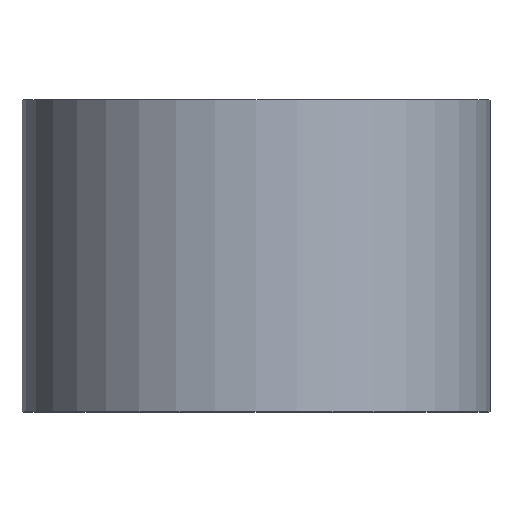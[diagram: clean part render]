
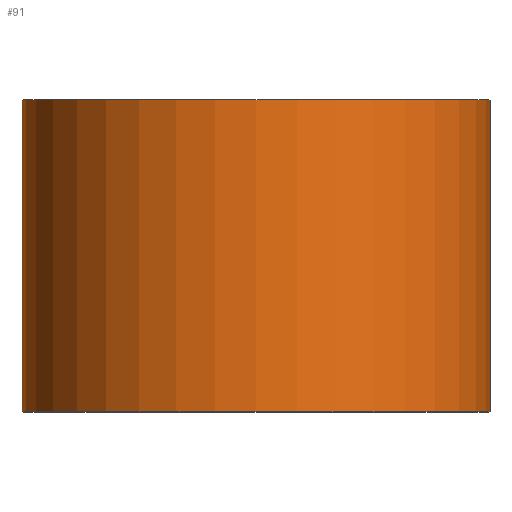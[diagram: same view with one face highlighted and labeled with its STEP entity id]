
A CAD part, top view. The second image highlights one B-rep face of the part: STEP entity #91.
In plain terms, the highlighted cylindrical face has radius 15 mm (diameter 30 mm), a partial arc.
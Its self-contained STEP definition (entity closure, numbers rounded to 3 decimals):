
#14 = LINE ( 'NONE', #251, #135 ) ;
#20 = FACE_OUTER_BOUND ( 'NONE', #254, .T. ) ;
#35 = ORIENTED_EDGE ( 'NONE', *, *, #193, .T. ) ;
#40 = VECTOR ( 'NONE', #296, 1000. ) ;
#62 = DIRECTION ( 'NONE',  ( 0., 1., 0. ) ) ;
#78 = ORIENTED_EDGE ( 'NONE', *, *, #200, .T. ) ;
#88 = VERTEX_POINT ( 'NONE', #268 ) ;
#89 = DIRECTION ( 'NONE',  ( 0., 1., 0. ) ) ;
#91 = ADVANCED_FACE ( 'NONE', ( #20 ), #281, .T. ) ;
#98 = LINE ( 'NONE', #250, #40 ) ;
#100 = EDGE_CURVE ( 'NONE', #294, #207, #14, .T. ) ;
#107 = CIRCLE ( 'NONE', #134, 15. ) ;
#109 = AXIS2_PLACEMENT_3D ( 'NONE', #166, #295, #187 ) ;
#115 = DIRECTION ( 'NONE',  ( 0., 1., 0. ) ) ;
#134 = AXIS2_PLACEMENT_3D ( 'NONE', #234, #62, #233 ) ;
#135 = VECTOR ( 'NONE', #89, 1000. ) ;
#150 = EDGE_CURVE ( 'NONE', #207, #88, #277, .T. ) ;
#166 = CARTESIAN_POINT ( 'NONE',  ( 0., 20., 0. ) ) ;
#173 = VERTEX_POINT ( 'NONE', #189 ) ;
#187 = DIRECTION ( 'NONE',  ( -1., 0., 0. ) ) ;
#189 = CARTESIAN_POINT ( 'NONE',  ( 15., 0., 0. ) ) ;
#193 = EDGE_CURVE ( 'NONE', #294, #173, #107, .T. ) ;
#200 = EDGE_CURVE ( 'NONE', #173, #88, #98, .T. ) ;
#207 = VERTEX_POINT ( 'NONE', #211 ) ;
#211 = CARTESIAN_POINT ( 'NONE',  ( -15., 20., 0. ) ) ;
#230 = DIRECTION ( 'NONE',  ( -1., 0., 0. ) ) ;
#233 = DIRECTION ( 'NONE',  ( -1., 0., 0. ) ) ;
#234 = CARTESIAN_POINT ( 'NONE',  ( 0., 0., 0. ) ) ;
#236 = CARTESIAN_POINT ( 'NONE',  ( -15., 0., 0. ) ) ;
#242 = ORIENTED_EDGE ( 'NONE', *, *, #150, .F. ) ;
#250 = CARTESIAN_POINT ( 'NONE',  ( 15., 0., 0. ) ) ;
#251 = CARTESIAN_POINT ( 'NONE',  ( -15., 0., 0. ) ) ;
#254 = EDGE_LOOP ( 'NONE', ( #35, #78, #242, #299 ) ) ;
#267 = AXIS2_PLACEMENT_3D ( 'NONE', #292, #115, #230 ) ;
#268 = CARTESIAN_POINT ( 'NONE',  ( 15., 20., 0. ) ) ;
#277 = CIRCLE ( 'NONE', #109, 15. ) ;
#281 = CYLINDRICAL_SURFACE ( 'NONE', #267, 15. ) ;
#292 = CARTESIAN_POINT ( 'NONE',  ( 0., 0., 0. ) ) ;
#294 = VERTEX_POINT ( 'NONE', #236 ) ;
#295 = DIRECTION ( 'NONE',  ( 0., 1., 0. ) ) ;
#296 = DIRECTION ( 'NONE',  ( 0., 1., 0. ) ) ;
#299 = ORIENTED_EDGE ( 'NONE', *, *, #100, .F. ) ;
